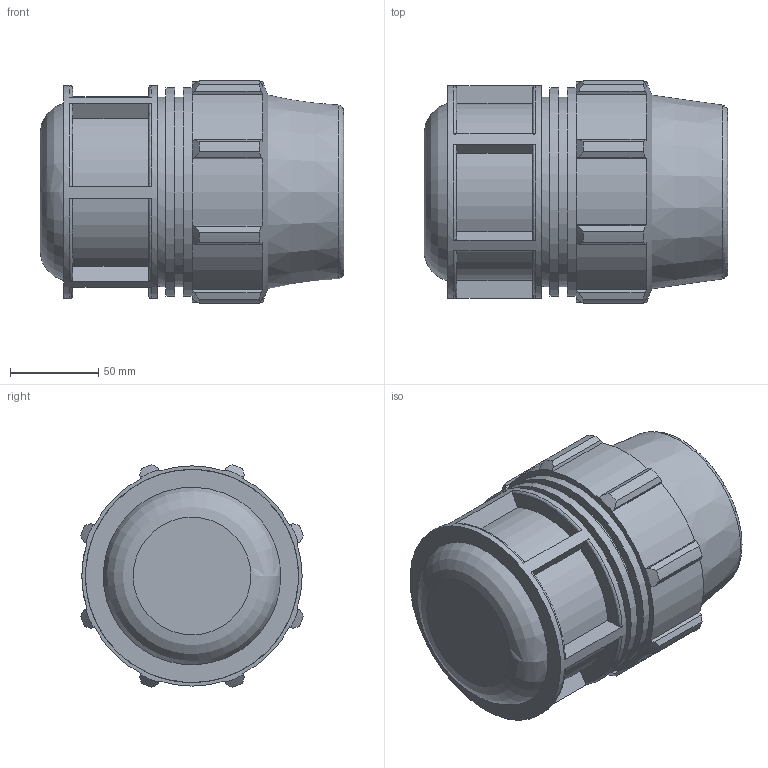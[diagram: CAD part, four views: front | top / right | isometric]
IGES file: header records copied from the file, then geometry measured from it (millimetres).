
Global section: file name: 0712060750A.ipt; native system: Autodesk Inventor 2015; preprocessor: unknown; author: Кирилл,,11,0; organization: 20170224.180708; date: 20180325.201214; units: millimetre
Bounding box: 172 x 126.08 x 126.08 mm (x, y, z)
Volume: 962635.3 mm3; surface area: 136675.7 mm2
Topology: 1 solids, 1 shells, 121 faces, 322 edges, 216 vertices
Faces by surface type: plane 66, cylinder 27, revolution 18, cone 10
Full cylindrical faces by diameter (mm): 107.2 x2, 118.188 x2, 120.6 x1
